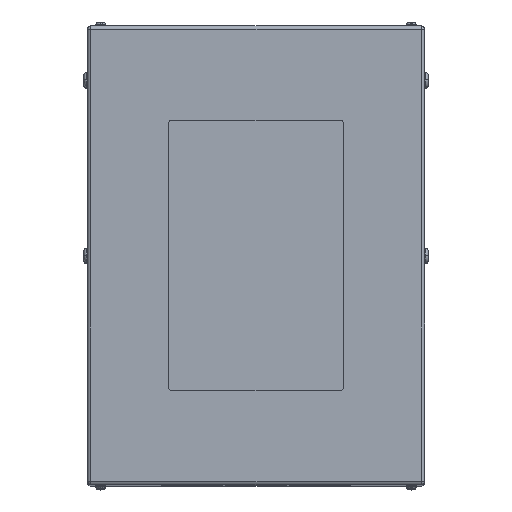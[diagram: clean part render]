
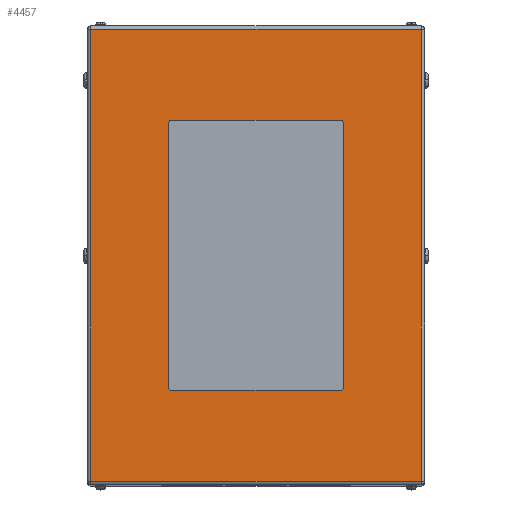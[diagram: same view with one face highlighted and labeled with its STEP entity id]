
A CAD part, top view. The second image highlights one B-rep face of the part: STEP entity #4457.
In plain terms, the highlighted planar face has unit normal (0, 0, 1).
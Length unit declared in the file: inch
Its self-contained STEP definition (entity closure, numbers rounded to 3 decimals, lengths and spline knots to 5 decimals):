
#61 = CARTESIAN_POINT ( 'NONE',  ( 6.25, 9.75, 26.5 ) ) ;
#251 = EDGE_CURVE ( 'NONE', #5552, #21030, #18009, .T. ) ;
#256 = CARTESIAN_POINT ( 'NONE',  ( 12.234, 16.734, 26.5 ) ) ;
#423 = DIRECTION ( 'NONE',  ( 1., 0., 0. ) ) ;
#669 = DIRECTION ( 'NONE',  ( 0., 0., 1. ) ) ;
#1337 = CARTESIAN_POINT ( 'NONE',  ( 6.25, -9.75, 26.5 ) ) ;
#1751 = EDGE_CURVE ( 'NONE', #15576, #7196, #3238, .T. ) ;
#1787 = DIRECTION ( 'NONE',  ( 0., 0., 1. ) ) ;
#1917 = DIRECTION ( 'NONE',  ( 0., 1., 0. ) ) ;
#2547 = LINE ( 'NONE', #18603, #6554 ) ;
#2640 = CARTESIAN_POINT ( 'NONE',  ( -12.234, -16.734, 26.5 ) ) ;
#2921 = DIRECTION ( 'NONE',  ( 0., 0., 1. ) ) ;
#3096 = VERTEX_POINT ( 'NONE', #14455 ) ;
#3238 = LINE ( 'NONE', #5264, #16998 ) ;
#3686 = DIRECTION ( 'NONE',  ( -1., 0., 0. ) ) ;
#3752 = VERTEX_POINT ( 'NONE', #19631 ) ;
#3788 = VECTOR ( 'NONE', #18943, 39.37008 ) ;
#3928 = CARTESIAN_POINT ( 'NONE',  ( 6.25, 10., 26.5 ) ) ;
#4133 = VECTOR ( 'NONE', #5704, 39.37008 ) ;
#4153 = AXIS2_PLACEMENT_3D ( 'NONE', #16481, #8236, #14855 ) ;
#4457 = ADVANCED_FACE ( 'NONE', ( #9108, #14624 ), #16628, .F. ) ;
#5094 = LINE ( 'NONE', #7189, #3788 ) ;
#5136 = VERTEX_POINT ( 'NONE', #16414 ) ;
#5264 = CARTESIAN_POINT ( 'NONE',  ( 12.234, 17., 26.5 ) ) ;
#5447 = DIRECTION ( 'NONE',  ( 1., 0., 0. ) ) ;
#5552 = VERTEX_POINT ( 'NONE', #20821 ) ;
#5561 = CARTESIAN_POINT ( 'NONE',  ( 12.5, 16.734, 26.5 ) ) ;
#5704 = DIRECTION ( 'NONE',  ( 0., -1., 0. ) ) ;
#5715 = VERTEX_POINT ( 'NONE', #2640 ) ;
#5764 = VECTOR ( 'NONE', #7094, 39.37008 ) ;
#5875 = CARTESIAN_POINT ( 'NONE',  ( -6.25, 10., 26.5 ) ) ;
#5980 = VERTEX_POINT ( 'NONE', #15209 ) ;
#6011 = ORIENTED_EDGE ( 'NONE', *, *, #17429, .F. ) ;
#6146 = VERTEX_POINT ( 'NONE', #13722 ) ;
#6554 = VECTOR ( 'NONE', #8324, 39.37008 ) ;
#6752 = ORIENTED_EDGE ( 'NONE', *, *, #16723, .T. ) ;
#7027 = CARTESIAN_POINT ( 'NONE',  ( 12.234, -16.734, 26.5 ) ) ;
#7094 = DIRECTION ( 'NONE',  ( -1., 0., 0. ) ) ;
#7103 = EDGE_CURVE ( 'NONE', #3096, #5136, #8032, .T. ) ;
#7189 = CARTESIAN_POINT ( 'NONE',  ( -6.25, -10., 26.5 ) ) ;
#7196 = VERTEX_POINT ( 'NONE', #256 ) ;
#7400 = ORIENTED_EDGE ( 'NONE', *, *, #251, .F. ) ;
#7481 = DIRECTION ( 'NONE',  ( -1., 0., 0. ) ) ;
#7484 = EDGE_CURVE ( 'NONE', #17123, #3752, #5094, .T. ) ;
#7518 = DIRECTION ( 'NONE',  ( 1., 0., 0. ) ) ;
#7838 = VECTOR ( 'NONE', #1917, 39.37008 ) ;
#8032 = CIRCLE ( 'NONE', #18455, 0.25 ) ;
#8236 = DIRECTION ( 'NONE',  ( 0., 0., -1. ) ) ;
#8280 = CIRCLE ( 'NONE', #13245, 0.25 ) ;
#8324 = DIRECTION ( 'NONE',  ( 0., -1., 0. ) ) ;
#8656 = EDGE_CURVE ( 'NONE', #6146, #5552, #12588, .T. ) ;
#8812 = EDGE_LOOP ( 'NONE', ( #20358, #14920, #19783, #19803, #20540, #7400, #14342, #6011 ) ) ;
#8906 = LINE ( 'NONE', #5561, #5764 ) ;
#9059 = CARTESIAN_POINT ( 'NONE',  ( 12.234, -16.734, 26.5 ) ) ;
#9108 = FACE_BOUND ( 'NONE', #8812, .T. ) ;
#10037 = EDGE_CURVE ( 'NONE', #14650, #5715, #2547, .T. ) ;
#10525 = CIRCLE ( 'NONE', #14827, 0.25 ) ;
#10628 = EDGE_CURVE ( 'NONE', #7196, #14650, #8906, .T. ) ;
#10655 = ORIENTED_EDGE ( 'NONE', *, *, #1751, .T. ) ;
#10733 = EDGE_CURVE ( 'NONE', #5136, #5980, #15206, .T. ) ;
#10911 = CARTESIAN_POINT ( 'NONE',  ( -6.25, -9.75, 26.5 ) ) ;
#10948 = AXIS2_PLACEMENT_3D ( 'NONE', #61, #1787, #3686 ) ;
#12110 = DIRECTION ( 'NONE',  ( 0., 1., 0. ) ) ;
#12138 = VECTOR ( 'NONE', #7481, 39.37008 ) ;
#12588 = LINE ( 'NONE', #13906, #7838 ) ;
#13245 = AXIS2_PLACEMENT_3D ( 'NONE', #1337, #2921, #19814 ) ;
#13722 = CARTESIAN_POINT ( 'NONE',  ( 6.5, -9.75, 26.5 ) ) ;
#13747 = CARTESIAN_POINT ( 'NONE',  ( -6.25, 9.75, 26.5 ) ) ;
#13906 = CARTESIAN_POINT ( 'NONE',  ( 6.5, 9.75, 26.5 ) ) ;
#14342 = ORIENTED_EDGE ( 'NONE', *, *, #8656, .F. ) ;
#14455 = CARTESIAN_POINT ( 'NONE',  ( -6.25, 10., 26.5 ) ) ;
#14624 = FACE_OUTER_BOUND ( 'NONE', #14977, .T. ) ;
#14650 = VERTEX_POINT ( 'NONE', #16666 ) ;
#14827 = AXIS2_PLACEMENT_3D ( 'NONE', #10911, #669, #7518 ) ;
#14855 = DIRECTION ( 'NONE',  ( -1., 0., 0. ) ) ;
#14920 = ORIENTED_EDGE ( 'NONE', *, *, #18366, .F. ) ;
#14977 = EDGE_LOOP ( 'NONE', ( #16658, #6752, #10655, #15001 ) ) ;
#15001 = ORIENTED_EDGE ( 'NONE', *, *, #10628, .T. ) ;
#15206 = LINE ( 'NONE', #17728, #4133 ) ;
#15209 = CARTESIAN_POINT ( 'NONE',  ( -6.5, -9.75, 26.5 ) ) ;
#15280 = EDGE_CURVE ( 'NONE', #21030, #3096, #16894, .T. ) ;
#15576 = VERTEX_POINT ( 'NONE', #7027 ) ;
#16390 = CARTESIAN_POINT ( 'NONE',  ( -6.25, -10., 26.5 ) ) ;
#16414 = CARTESIAN_POINT ( 'NONE',  ( -6.5, 9.75, 26.5 ) ) ;
#16481 = CARTESIAN_POINT ( 'NONE',  ( 12.5, 17., 26.5 ) ) ;
#16490 = LINE ( 'NONE', #9059, #20176 ) ;
#16628 = PLANE ( 'NONE',  #4153 ) ;
#16658 = ORIENTED_EDGE ( 'NONE', *, *, #10037, .T. ) ;
#16666 = CARTESIAN_POINT ( 'NONE',  ( -12.234, 16.734, 26.5 ) ) ;
#16723 = EDGE_CURVE ( 'NONE', #5715, #15576, #16490, .T. ) ;
#16894 = LINE ( 'NONE', #5875, #12138 ) ;
#16998 = VECTOR ( 'NONE', #12110, 39.37008 ) ;
#17123 = VERTEX_POINT ( 'NONE', #16390 ) ;
#17132 = DIRECTION ( 'NONE',  ( 0., 0., 1. ) ) ;
#17429 = EDGE_CURVE ( 'NONE', #3752, #6146, #8280, .T. ) ;
#17728 = CARTESIAN_POINT ( 'NONE',  ( -6.5, 9.75, 26.5 ) ) ;
#18009 = CIRCLE ( 'NONE', #10948, 0.25 ) ;
#18366 = EDGE_CURVE ( 'NONE', #5980, #17123, #10525, .T. ) ;
#18455 = AXIS2_PLACEMENT_3D ( 'NONE', #13747, #17132, #5447 ) ;
#18603 = CARTESIAN_POINT ( 'NONE',  ( -12.234, 17., 26.5 ) ) ;
#18943 = DIRECTION ( 'NONE',  ( 1., 0., 0. ) ) ;
#19631 = CARTESIAN_POINT ( 'NONE',  ( 6.25, -10., 26.5 ) ) ;
#19783 = ORIENTED_EDGE ( 'NONE', *, *, #10733, .F. ) ;
#19803 = ORIENTED_EDGE ( 'NONE', *, *, #7103, .F. ) ;
#19814 = DIRECTION ( 'NONE',  ( 1., 0., 0. ) ) ;
#20176 = VECTOR ( 'NONE', #423, 39.37008 ) ;
#20358 = ORIENTED_EDGE ( 'NONE', *, *, #7484, .F. ) ;
#20540 = ORIENTED_EDGE ( 'NONE', *, *, #15280, .F. ) ;
#20821 = CARTESIAN_POINT ( 'NONE',  ( 6.5, 9.75, 26.5 ) ) ;
#21030 = VERTEX_POINT ( 'NONE', #3928 ) ;
